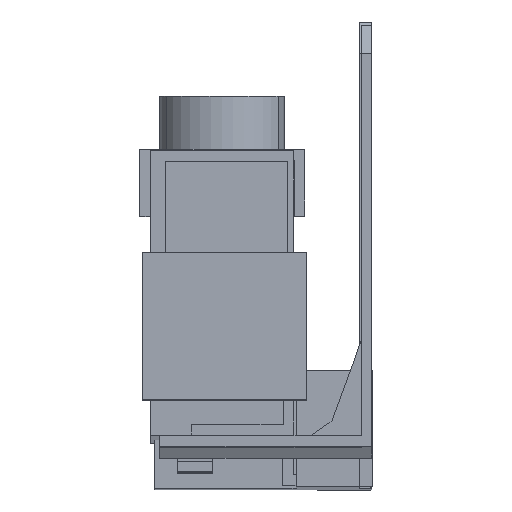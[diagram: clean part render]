
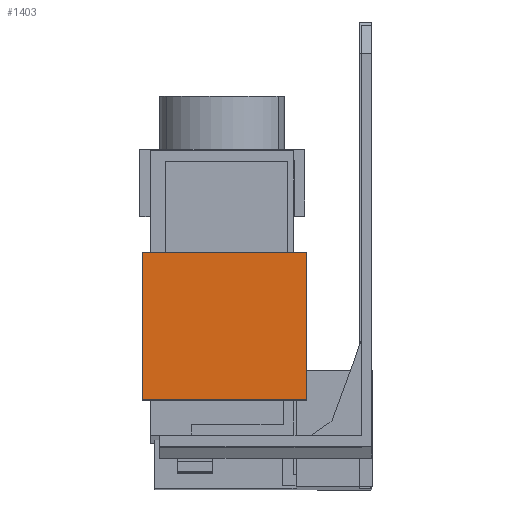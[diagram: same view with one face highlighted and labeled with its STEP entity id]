
A CAD part, front view. The second image highlights one B-rep face of the part: STEP entity #1403.
In plain terms, the highlighted planar face has unit normal (0, -1, 0.003).
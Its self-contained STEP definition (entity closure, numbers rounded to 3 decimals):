
#137 = EDGE_CURVE ( 'NONE', #6873, #6871, #2883, .T. ) ;
#254 = EDGE_CURVE ( 'NONE', #6870, #6869, #3090, .T. ) ;
#347 = EDGE_CURVE ( 'NONE', #6873, #6870, #3257, .T. ) ;
#438 = EDGE_CURVE ( 'NONE', #6871, #6869, #3424, .T. ) ;
#546 = CARTESIAN_POINT ( 'NONE',  ( -9.3, -31.509, -40.315 ) ) ;
#547 = DIRECTION ( 'NONE',  ( -1., 0., 0. ) ) ;
#880 = AXIS2_PLACEMENT_3D ( 'NONE', #5488, #5494, #5495 ) ;
#1403 = ADVANCED_FACE ( 'NONE', ( #3966 ), #5485, .T. ) ;
#1872 = ORIENTED_EDGE ( 'NONE', *, *, #254, .T. ) ;
#1873 = ORIENTED_EDGE ( 'NONE', *, *, #438, .F. ) ;
#1874 = ORIENTED_EDGE ( 'NONE', *, *, #137, .F. ) ;
#1875 = ORIENTED_EDGE ( 'NONE', *, *, #347, .T. ) ;
#2397 = EDGE_LOOP ( 'NONE', ( #1872, #1873, #1874, #1875 ) ) ;
#2883 = LINE ( 'NONE', #546, #2884 ) ;
#2884 = VECTOR ( 'NONE', #547, 1000. ) ;
#3090 = LINE ( 'NONE', #4195, #3091 ) ;
#3091 = VECTOR ( 'NONE', #4196, 1000. ) ;
#3257 = LINE ( 'NONE', #4387, #3266 ) ;
#3266 = VECTOR ( 'NONE', #4394, 1000. ) ;
#3424 = LINE ( 'NONE', #4596, #3425 ) ;
#3425 = VECTOR ( 'NONE', #4597, 1000. ) ;
#3966 = FACE_OUTER_BOUND ( 'NONE', #2397, .T. ) ;
#4195 = CARTESIAN_POINT ( 'NONE',  ( -9.3, -31.452, -19.316 ) ) ;
#4196 = DIRECTION ( 'NONE',  ( -1., 0., 0. ) ) ;
#4387 = CARTESIAN_POINT ( 'NONE',  ( -9.3, -31.509, -40.315 ) ) ;
#4394 = DIRECTION ( 'NONE',  ( 0., 0.003, 1. ) ) ;
#4596 = CARTESIAN_POINT ( 'NONE',  ( -32.7, -31.509, -40.315 ) ) ;
#4597 = DIRECTION ( 'NONE',  ( 0., 0.003, 1. ) ) ;
#5485 = PLANE ( 'NONE',  #880 ) ;
#5488 = CARTESIAN_POINT ( 'NONE',  ( -9.3, -31.509, -40.315 ) ) ;
#5494 = DIRECTION ( 'NONE',  ( 0., -1., 0.003 ) ) ;
#5495 = DIRECTION ( 'NONE',  ( 1., 0., 0. ) ) ;
#6217 = CARTESIAN_POINT ( 'NONE',  ( -32.7, -31.452, -19.316 ) ) ;
#6218 = CARTESIAN_POINT ( 'NONE',  ( -9.3, -31.452, -19.316 ) ) ;
#6219 = CARTESIAN_POINT ( 'NONE',  ( -32.7, -31.509, -40.315 ) ) ;
#6221 = CARTESIAN_POINT ( 'NONE',  ( -9.3, -31.509, -40.315 ) ) ;
#6869 = VERTEX_POINT ( 'NONE', #6217 ) ;
#6870 = VERTEX_POINT ( 'NONE', #6218 ) ;
#6871 = VERTEX_POINT ( 'NONE', #6219 ) ;
#6873 = VERTEX_POINT ( 'NONE', #6221 ) ;
